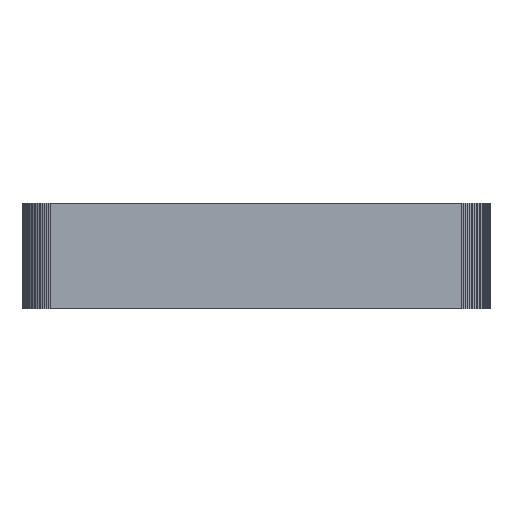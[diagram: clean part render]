
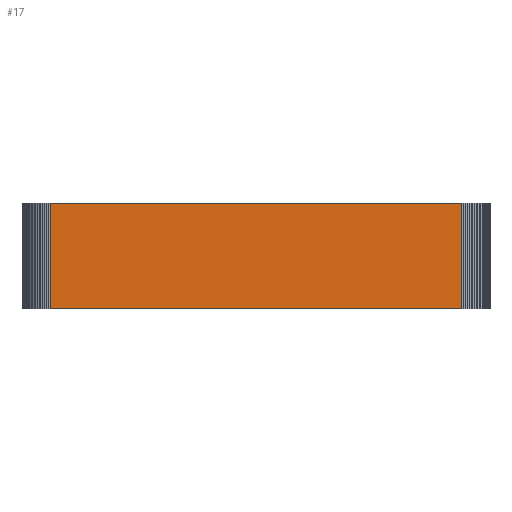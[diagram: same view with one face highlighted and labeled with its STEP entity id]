
A CAD part, left-side view. The second image highlights one B-rep face of the part: STEP entity #17.
In plain terms, the highlighted free-form (B-spline) face has degree [1, 1] with [2, 2] control points.
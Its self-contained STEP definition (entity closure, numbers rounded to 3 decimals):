
#17 = ADVANCED_FACE('',(#18),#31,.T.);
#18 = FACE_BOUND('',#19,.T.);
#19 = EDGE_LOOP('',(#20,#54,#80,#107));
#20 = ORIENTED_EDGE('',*,*,#21,.T.);
#21 = EDGE_CURVE('',#22,#24,#26,.T.);
#22 = VERTEX_POINT('',#23);
#23 = CARTESIAN_POINT('',(-3.5,0.,
    22.));
#24 = VERTEX_POINT('',#25);
#25 = CARTESIAN_POINT('',(-3.5,0.,
    35.));
#26 = SURFACE_CURVE('',#27,(#30,#42),.PCURVE_S1.);
#27 = B_SPLINE_CURVE_WITH_KNOTS('',1,(#28,#29),.UNSPECIFIED.,.F.,.F.,(2,
    2),(0.,866.142),.PIECEWISE_BEZIER_KNOTS.);
#28 = CARTESIAN_POINT('',(-3.5,0.,
    22.));
#29 = CARTESIAN_POINT('',(-3.5,0.,
    35.));
#30 = PCURVE('',#31,#36);
#31 = B_SPLINE_SURFACE_WITH_KNOTS('',1,1,(
    (#32,#33)
    ,(#34,#35
  )),.UNSPECIFIED.,.F.,.F.,.F.,(2,2),(2,2),(0.,1995.118),(-866.142
    ,0.),.PIECEWISE_BEZIER_KNOTS.);
#32 = CARTESIAN_POINT('',(-3.5,0.,
    35.));
#33 = CARTESIAN_POINT('',(-3.5,0.,
    22.));
#34 = CARTESIAN_POINT('',(-3.5,50.676,
    35.));
#35 = CARTESIAN_POINT('',(-3.5,50.676,
    22.));
#36 = DEFINITIONAL_REPRESENTATION('',(#37),#41);
#37 = B_SPLINE_CURVE_WITH_KNOTS('',2,(#38,#39,#40),.UNSPECIFIED.,.F.,.F.
  ,(3,3),(0.,866.142),.PIECEWISE_BEZIER_KNOTS.);
#38 = CARTESIAN_POINT('',(0.,0.));
#39 = CARTESIAN_POINT('',(0.,-433.071));
#40 = CARTESIAN_POINT('',(0.,-866.142));
#41 = ( GEOMETRIC_REPRESENTATION_CONTEXT(2) 
PARAMETRIC_REPRESENTATION_CONTEXT() REPRESENTATION_CONTEXT('2D SPACE',''
  ) );
#42 = PCURVE('',#43,#48);
#43 = B_SPLINE_SURFACE_WITH_KNOTS('',1,1,(
    (#44,#45)
    ,(#46,#47
    )),.UNSPECIFIED.,.F.,.F.,.F.,(2,2),(2,2),(0.,9.409),(
    -866.142,0.),.PIECEWISE_BEZIER_KNOTS.);
#44 = CARTESIAN_POINT('',(-3.492,-0.239,
    35.));
#45 = CARTESIAN_POINT('',(-3.492,-0.239,
    22.));
#46 = CARTESIAN_POINT('',(-3.5,0.,
    35.));
#47 = CARTESIAN_POINT('',(-3.5,0.,
    22.));
#48 = DEFINITIONAL_REPRESENTATION('',(#49),#53);
#49 = B_SPLINE_CURVE_WITH_KNOTS('',2,(#50,#51,#52),.UNSPECIFIED.,.F.,.F.
  ,(3,3),(0.,866.142),.PIECEWISE_BEZIER_KNOTS.);
#50 = CARTESIAN_POINT('',(9.409,0.));
#51 = CARTESIAN_POINT('',(9.409,-433.071));
#52 = CARTESIAN_POINT('',(9.409,-866.142));
#53 = ( GEOMETRIC_REPRESENTATION_CONTEXT(2) 
PARAMETRIC_REPRESENTATION_CONTEXT() REPRESENTATION_CONTEXT('2D SPACE',''
  ) );
#54 = ORIENTED_EDGE('',*,*,#55,.T.);
#55 = EDGE_CURVE('',#24,#56,#58,.T.);
#56 = VERTEX_POINT('',#57);
#57 = CARTESIAN_POINT('',(-3.5,50.676,
    35.));
#58 = SURFACE_CURVE('',#59,(#62,#69),.PCURVE_S1.);
#59 = B_SPLINE_CURVE_WITH_KNOTS('',1,(#60,#61),.UNSPECIFIED.,.F.,.F.,(2,
    2),(0.,1995.118),.PIECEWISE_BEZIER_KNOTS.);
#60 = CARTESIAN_POINT('',(-3.5,0.,
    35.));
#61 = CARTESIAN_POINT('',(-3.5,50.676,
    35.));
#62 = PCURVE('',#31,#63);
#63 = DEFINITIONAL_REPRESENTATION('',(#64),#68);
#64 = B_SPLINE_CURVE_WITH_KNOTS('',2,(#65,#66,#67),.UNSPECIFIED.,.F.,.F.
  ,(3,3),(0.,1995.118),.PIECEWISE_BEZIER_KNOTS.);
#65 = CARTESIAN_POINT('',(0.,-866.142));
#66 = CARTESIAN_POINT('',(997.559,-866.142));
#67 = CARTESIAN_POINT('',(1995.118,-866.142));
#68 = ( GEOMETRIC_REPRESENTATION_CONTEXT(2) 
PARAMETRIC_REPRESENTATION_CONTEXT() REPRESENTATION_CONTEXT('2D SPACE',''
  ) );
#69 = PCURVE('',#70,#75);
#70 = B_SPLINE_SURFACE_WITH_KNOTS('',1,1,(
    (#71,#72)
    ,(#73,#74
    )),.UNSPECIFIED.,.F.,.F.,.F.,(2,2),(2,2),(-1751.969,
    1751.969),(-1135.354,1135.354),
  .PIECEWISE_BEZIER_KNOTS.);
#71 = CARTESIAN_POINT('',(85.5,-3.5,
    35.));
#72 = CARTESIAN_POINT('',(85.5,54.176,
    35.));
#73 = CARTESIAN_POINT('',(-3.5,-3.5,
    35.));
#74 = CARTESIAN_POINT('',(-3.5,54.176,
    35.));
#75 = DEFINITIONAL_REPRESENTATION('',(#76),#79);
#76 = B_SPLINE_CURVE_WITH_KNOTS('',1,(#77,#78),.UNSPECIFIED.,.F.,.F.,(2,
    2),(0.,1995.118),.PIECEWISE_BEZIER_KNOTS.);
#77 = CARTESIAN_POINT('',(1751.969,-997.559));
#78 = CARTESIAN_POINT('',(1751.969,997.559));
#79 = ( GEOMETRIC_REPRESENTATION_CONTEXT(2) 
PARAMETRIC_REPRESENTATION_CONTEXT() REPRESENTATION_CONTEXT('2D SPACE',''
  ) );
#80 = ORIENTED_EDGE('',*,*,#81,.F.);
#81 = EDGE_CURVE('',#82,#56,#84,.T.);
#82 = VERTEX_POINT('',#83);
#83 = CARTESIAN_POINT('',(-3.5,50.676,
    22.));
#84 = SURFACE_CURVE('',#85,(#88,#95),.PCURVE_S1.);
#85 = B_SPLINE_CURVE_WITH_KNOTS('',1,(#86,#87),.UNSPECIFIED.,.F.,.F.,(2,
    2),(0.,866.142),.PIECEWISE_BEZIER_KNOTS.);
#86 = CARTESIAN_POINT('',(-3.5,50.676,
    22.));
#87 = CARTESIAN_POINT('',(-3.5,50.676,
    35.));
#88 = PCURVE('',#31,#89);
#89 = DEFINITIONAL_REPRESENTATION('',(#90),#94);
#90 = B_SPLINE_CURVE_WITH_KNOTS('',2,(#91,#92,#93),.UNSPECIFIED.,.F.,.F.
  ,(3,3),(0.,866.142),.PIECEWISE_BEZIER_KNOTS.);
#91 = CARTESIAN_POINT('',(1995.118,0.));
#92 = CARTESIAN_POINT('',(1995.118,-433.071));
#93 = CARTESIAN_POINT('',(1995.118,-866.142));
#94 = ( GEOMETRIC_REPRESENTATION_CONTEXT(2) 
PARAMETRIC_REPRESENTATION_CONTEXT() REPRESENTATION_CONTEXT('2D SPACE',''
  ) );
#95 = PCURVE('',#96,#101);
#96 = B_SPLINE_SURFACE_WITH_KNOTS('',1,1,(
    (#97,#98)
    ,(#99,#100
    )),.UNSPECIFIED.,.F.,.F.,.F.,(2,2),(2,2),(0.,9.409),(
    -866.142,0.),.PIECEWISE_BEZIER_KNOTS.);
#97 = CARTESIAN_POINT('',(-3.5,50.676,
    35.));
#98 = CARTESIAN_POINT('',(-3.5,50.676,
    22.));
#99 = CARTESIAN_POINT('',(-3.492,50.915,
    35.));
#100 = CARTESIAN_POINT('',(-3.492,50.915,
    22.));
#101 = DEFINITIONAL_REPRESENTATION('',(#102),#106);
#102 = B_SPLINE_CURVE_WITH_KNOTS('',2,(#103,#104,#105),.UNSPECIFIED.,.F.
  ,.F.,(3,3),(0.,866.142),.PIECEWISE_BEZIER_KNOTS.);
#103 = CARTESIAN_POINT('',(0.,0.));
#104 = CARTESIAN_POINT('',(0.,-433.071));
#105 = CARTESIAN_POINT('',(0.,-866.142));
#106 = ( GEOMETRIC_REPRESENTATION_CONTEXT(2) 
PARAMETRIC_REPRESENTATION_CONTEXT() REPRESENTATION_CONTEXT('2D SPACE',''
  ) );
#107 = ORIENTED_EDGE('',*,*,#108,.F.);
#108 = EDGE_CURVE('',#22,#82,#109,.T.);
#109 = SURFACE_CURVE('',#110,(#113,#120),.PCURVE_S1.);
#110 = B_SPLINE_CURVE_WITH_KNOTS('',1,(#111,#112),.UNSPECIFIED.,.F.,.F.,
  (2,2),(0.,1995.118),.PIECEWISE_BEZIER_KNOTS.);
#111 = CARTESIAN_POINT('',(-3.5,0.,
    22.));
#112 = CARTESIAN_POINT('',(-3.5,50.676,
    22.));
#113 = PCURVE('',#31,#114);
#114 = DEFINITIONAL_REPRESENTATION('',(#115),#119);
#115 = B_SPLINE_CURVE_WITH_KNOTS('',2,(#116,#117,#118),.UNSPECIFIED.,.F.
  ,.F.,(3,3),(0.,1995.118),.PIECEWISE_BEZIER_KNOTS.);
#116 = CARTESIAN_POINT('',(0.,0.));
#117 = CARTESIAN_POINT('',(997.559,0.));
#118 = CARTESIAN_POINT('',(1995.118,0.));
#119 = ( GEOMETRIC_REPRESENTATION_CONTEXT(2) 
PARAMETRIC_REPRESENTATION_CONTEXT() REPRESENTATION_CONTEXT('2D SPACE',''
  ) );
#120 = PCURVE('',#121,#126);
#121 = B_SPLINE_SURFACE_WITH_KNOTS('',1,1,(
    (#122,#123)
    ,(#124,#125
    )),.UNSPECIFIED.,.F.,.F.,.F.,(2,2),(2,2),(-1751.969,
    1751.969),(-1135.354,1135.354),
  .PIECEWISE_BEZIER_KNOTS.);
#122 = CARTESIAN_POINT('',(85.5,-3.5,
    22.));
#123 = CARTESIAN_POINT('',(85.5,54.176,
    22.));
#124 = CARTESIAN_POINT('',(-3.5,-3.5,
    22.));
#125 = CARTESIAN_POINT('',(-3.5,54.176,
    22.));
#126 = DEFINITIONAL_REPRESENTATION('',(#127),#137);
#127 = B_SPLINE_CURVE_WITH_KNOTS('',8,(#128,#129,#130,#131,#132,#133,
    #134,#135,#136),.UNSPECIFIED.,.F.,.F.,(9,9),(0.,1995.118),
  .PIECEWISE_BEZIER_KNOTS.);
#128 = CARTESIAN_POINT('',(1751.969,-997.559));
#129 = CARTESIAN_POINT('',(1751.969,-748.169));
#130 = CARTESIAN_POINT('',(1751.969,-498.78));
#131 = CARTESIAN_POINT('',(1751.969,-249.39));
#132 = CARTESIAN_POINT('',(1751.969,0.));
#133 = CARTESIAN_POINT('',(1751.969,249.39));
#134 = CARTESIAN_POINT('',(1751.969,498.78));
#135 = CARTESIAN_POINT('',(1751.969,748.169));
#136 = CARTESIAN_POINT('',(1751.969,997.559));
#137 = ( GEOMETRIC_REPRESENTATION_CONTEXT(2) 
PARAMETRIC_REPRESENTATION_CONTEXT() REPRESENTATION_CONTEXT('2D SPACE',''
  ) );
